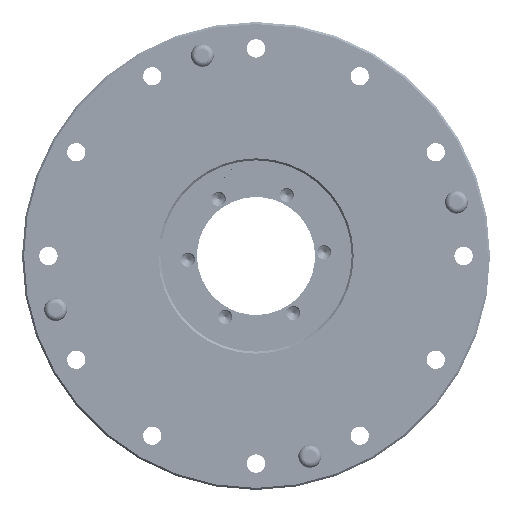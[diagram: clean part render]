
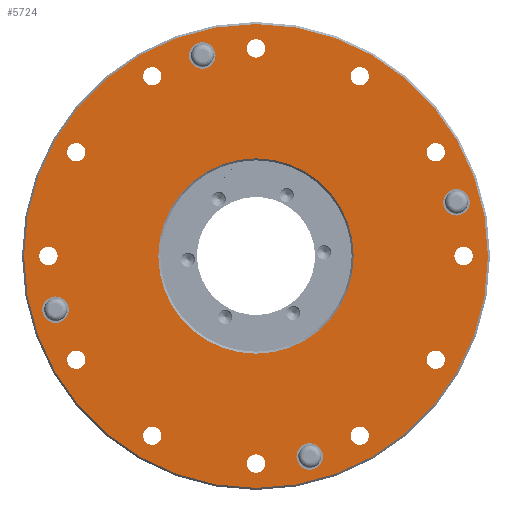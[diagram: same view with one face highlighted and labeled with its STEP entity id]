
A CAD part, front view. The second image highlights one B-rep face of the part: STEP entity #5724.
In plain terms, the highlighted planar face has unit normal (0, -1, 0).
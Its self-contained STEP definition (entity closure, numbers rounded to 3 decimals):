
#5307=PLANE('',#19863);
#5724=ADVANCED_FACE('',(#7214,#7215,#7216,#7217,#7218,#7219,#7220,#7221,
#7222,#7223,#7224,#7225,#7226,#7227,#7228,#7229,#7230,#7231),#5307,.F.);
#7214=FACE_BOUND('',#8492,.T.);
#7215=FACE_BOUND('',#8493,.T.);
#7216=FACE_BOUND('',#8494,.T.);
#7217=FACE_BOUND('',#8495,.T.);
#7218=FACE_BOUND('',#8496,.T.);
#7219=FACE_BOUND('',#8497,.T.);
#7220=FACE_BOUND('',#8498,.T.);
#7221=FACE_BOUND('',#8499,.T.);
#7222=FACE_BOUND('',#8500,.T.);
#7223=FACE_BOUND('',#8501,.T.);
#7224=FACE_BOUND('',#8502,.T.);
#7225=FACE_BOUND('',#8503,.T.);
#7226=FACE_BOUND('',#8504,.T.);
#7227=FACE_BOUND('',#8505,.T.);
#7228=FACE_BOUND('',#8506,.T.);
#7229=FACE_BOUND('',#8507,.T.);
#7230=FACE_BOUND('',#8508,.T.);
#7231=FACE_BOUND('',#8509,.T.);
#8492=EDGE_LOOP('',(#10347));
#8493=EDGE_LOOP('',(#10348));
#8494=EDGE_LOOP('',(#10349));
#8495=EDGE_LOOP('',(#10350));
#8496=EDGE_LOOP('',(#10351));
#8497=EDGE_LOOP('',(#10352));
#8498=EDGE_LOOP('',(#10353));
#8499=EDGE_LOOP('',(#10354));
#8500=EDGE_LOOP('',(#10355));
#8501=EDGE_LOOP('',(#10356));
#8502=EDGE_LOOP('',(#10357));
#8503=EDGE_LOOP('',(#10358));
#8504=EDGE_LOOP('',(#10359));
#8505=EDGE_LOOP('',(#10360));
#8506=EDGE_LOOP('',(#10361));
#8507=EDGE_LOOP('',(#10362));
#8508=EDGE_LOOP('',(#10363));
#8509=EDGE_LOOP('',(#10364));
#10347=ORIENTED_EDGE('',*,*,#16654,.F.);
#10348=ORIENTED_EDGE('',*,*,#16655,.F.);
#10349=ORIENTED_EDGE('',*,*,#16656,.F.);
#10350=ORIENTED_EDGE('',*,*,#16657,.F.);
#10351=ORIENTED_EDGE('',*,*,#16658,.T.);
#10352=ORIENTED_EDGE('',*,*,#16659,.T.);
#10353=ORIENTED_EDGE('',*,*,#16660,.T.);
#10354=ORIENTED_EDGE('',*,*,#16661,.T.);
#10355=ORIENTED_EDGE('',*,*,#16662,.T.);
#10356=ORIENTED_EDGE('',*,*,#16663,.T.);
#10357=ORIENTED_EDGE('',*,*,#16664,.T.);
#10358=ORIENTED_EDGE('',*,*,#16665,.T.);
#10359=ORIENTED_EDGE('',*,*,#16666,.T.);
#10360=ORIENTED_EDGE('',*,*,#16667,.T.);
#10361=ORIENTED_EDGE('',*,*,#16668,.T.);
#10362=ORIENTED_EDGE('',*,*,#16669,.T.);
#10363=ORIENTED_EDGE('',*,*,#16670,.T.);
#10364=ORIENTED_EDGE('',*,*,#16671,.T.);
#14900=VERTEX_POINT('',#26273);
#14901=VERTEX_POINT('',#26275);
#14902=VERTEX_POINT('',#26277);
#14903=VERTEX_POINT('',#26279);
#14904=VERTEX_POINT('',#26281);
#14905=VERTEX_POINT('',#26283);
#14906=VERTEX_POINT('',#26285);
#14907=VERTEX_POINT('',#26287);
#14908=VERTEX_POINT('',#26289);
#14909=VERTEX_POINT('',#26291);
#14910=VERTEX_POINT('',#26293);
#14911=VERTEX_POINT('',#26295);
#14912=VERTEX_POINT('',#26297);
#14913=VERTEX_POINT('',#26299);
#14914=VERTEX_POINT('',#26301);
#14915=VERTEX_POINT('',#26303);
#14916=VERTEX_POINT('',#26305);
#14917=VERTEX_POINT('',#26307);
#16654=EDGE_CURVE('',#14900,#14900,#18931,.T.);
#16655=EDGE_CURVE('',#14901,#14901,#18932,.T.);
#16656=EDGE_CURVE('',#14902,#14902,#18933,.T.);
#16657=EDGE_CURVE('',#14903,#14903,#18934,.T.);
#16658=EDGE_CURVE('',#14904,#14904,#18935,.T.);
#16659=EDGE_CURVE('',#14905,#14905,#18936,.T.);
#16660=EDGE_CURVE('',#14906,#14906,#18937,.T.);
#16661=EDGE_CURVE('',#14907,#14907,#18938,.T.);
#16662=EDGE_CURVE('',#14908,#14908,#18939,.T.);
#16663=EDGE_CURVE('',#14909,#14909,#18940,.T.);
#16664=EDGE_CURVE('',#14910,#14910,#18941,.T.);
#16665=EDGE_CURVE('',#14911,#14911,#18942,.T.);
#16666=EDGE_CURVE('',#14912,#14912,#18943,.T.);
#16667=EDGE_CURVE('',#14913,#14913,#18944,.T.);
#16668=EDGE_CURVE('',#14914,#14914,#18945,.T.);
#16669=EDGE_CURVE('',#14915,#14915,#18946,.T.);
#16670=EDGE_CURVE('',#14916,#14916,#18947,.T.);
#16671=EDGE_CURVE('',#14917,#14917,#18948,.T.);
#18931=CIRCLE('',#19845,3.25);
#18932=CIRCLE('',#19846,3.25);
#18933=CIRCLE('',#19847,3.25);
#18934=CIRCLE('',#19848,3.25);
#18935=CIRCLE('',#19849,24.);
#18936=CIRCLE('',#19850,57.);
#18937=CIRCLE('',#19851,2.25);
#18938=CIRCLE('',#19852,2.25);
#18939=CIRCLE('',#19853,2.25);
#18940=CIRCLE('',#19854,2.25);
#18941=CIRCLE('',#19855,2.25);
#18942=CIRCLE('',#19856,2.25);
#18943=CIRCLE('',#19857,2.25);
#18944=CIRCLE('',#19858,2.25);
#18945=CIRCLE('',#19859,2.25);
#18946=CIRCLE('',#19860,2.25);
#18947=CIRCLE('',#19861,2.25);
#18948=CIRCLE('',#19862,2.25);
#19845=AXIS2_PLACEMENT_3D('',#26272,#21794,#21795);
#19846=AXIS2_PLACEMENT_3D('',#26274,#21796,#21797);
#19847=AXIS2_PLACEMENT_3D('',#26276,#21798,#21799);
#19848=AXIS2_PLACEMENT_3D('',#26278,#21800,#21801);
#19849=AXIS2_PLACEMENT_3D('',#26280,#21802,#21803);
#19850=AXIS2_PLACEMENT_3D('',#26282,#21804,#21805);
#19851=AXIS2_PLACEMENT_3D('',#26284,#21806,#21807);
#19852=AXIS2_PLACEMENT_3D('',#26286,#21808,#21809);
#19853=AXIS2_PLACEMENT_3D('',#26288,#21810,#21811);
#19854=AXIS2_PLACEMENT_3D('',#26290,#21812,#21813);
#19855=AXIS2_PLACEMENT_3D('',#26292,#21814,#21815);
#19856=AXIS2_PLACEMENT_3D('',#26294,#21816,#21817);
#19857=AXIS2_PLACEMENT_3D('',#26296,#21818,#21819);
#19858=AXIS2_PLACEMENT_3D('',#26298,#21820,#21821);
#19859=AXIS2_PLACEMENT_3D('',#26300,#21822,#21823);
#19860=AXIS2_PLACEMENT_3D('',#26302,#21824,#21825);
#19861=AXIS2_PLACEMENT_3D('',#26304,#21826,#21827);
#19862=AXIS2_PLACEMENT_3D('',#26306,#21828,#21829);
#19863=AXIS2_PLACEMENT_3D('',#26308,#21830,#21831);
#21794=DIRECTION('',(0.,-1.,0.));
#21795=DIRECTION('',(-1.,0.,0.));
#21796=DIRECTION('',(0.,-1.,0.));
#21797=DIRECTION('',(0.,0.,1.));
#21798=DIRECTION('',(0.,-1.,0.));
#21799=DIRECTION('',(1.,0.,0.));
#21800=DIRECTION('',(0.,-1.,0.));
#21801=DIRECTION('',(0.,0.,-1.));
#21802=DIRECTION('',(0.,1.,0.));
#21803=DIRECTION('',(0.,0.,1.));
#21804=DIRECTION('',(0.,-1.,0.));
#21805=DIRECTION('',(0.,0.,1.));
#21806=DIRECTION('',(0.,1.,0.));
#21807=DIRECTION('',(0.,0.,1.));
#21808=DIRECTION('',(0.,1.,0.));
#21809=DIRECTION('',(0.,0.,1.));
#21810=DIRECTION('',(0.,1.,0.));
#21811=DIRECTION('',(0.,0.,1.));
#21812=DIRECTION('',(0.,1.,0.));
#21813=DIRECTION('',(0.,0.,1.));
#21814=DIRECTION('',(0.,1.,0.));
#21815=DIRECTION('',(0.,0.,1.));
#21816=DIRECTION('',(0.,1.,0.));
#21817=DIRECTION('',(0.,0.,1.));
#21818=DIRECTION('',(0.,1.,0.));
#21819=DIRECTION('',(0.,0.,1.));
#21820=DIRECTION('',(0.,1.,0.));
#21821=DIRECTION('',(0.,0.,1.));
#21822=DIRECTION('',(0.,1.,0.));
#21823=DIRECTION('',(0.,0.,1.));
#21824=DIRECTION('',(0.,1.,0.));
#21825=DIRECTION('',(0.,0.,1.));
#21826=DIRECTION('',(0.,1.,0.));
#21827=DIRECTION('',(0.,0.,1.));
#21828=DIRECTION('',(0.,1.,0.));
#21829=DIRECTION('',(0.,0.,1.));
#21830=DIRECTION('',(0.,1.,0.));
#21831=DIRECTION('',(0.,0.,1.));
#26272=CARTESIAN_POINT('',(13.2,2.5,-49.262));
#26273=CARTESIAN_POINT('',(9.95,2.5,-49.262));
#26274=CARTESIAN_POINT('',(-49.262,2.5,-13.2));
#26275=CARTESIAN_POINT('',(-49.262,2.5,-9.95));
#26276=CARTESIAN_POINT('',(-13.2,2.5,49.262));
#26277=CARTESIAN_POINT('',(-9.95,2.5,49.262));
#26278=CARTESIAN_POINT('',(49.262,2.5,13.2));
#26279=CARTESIAN_POINT('',(49.262,2.5,9.95));
#26280=CARTESIAN_POINT('',(0.,2.5,0.));
#26281=CARTESIAN_POINT('',(0.,2.5,24.));
#26282=CARTESIAN_POINT('',(0.,2.5,0.));
#26283=CARTESIAN_POINT('',(0.,2.5,57.));
#26284=CARTESIAN_POINT('',(-25.5,2.5,-44.167));
#26285=CARTESIAN_POINT('',(-25.5,2.5,-41.917));
#26286=CARTESIAN_POINT('',(-44.167,2.5,-25.5));
#26287=CARTESIAN_POINT('',(-44.167,2.5,-23.25));
#26288=CARTESIAN_POINT('',(-51.,2.5,0.));
#26289=CARTESIAN_POINT('',(-51.,2.5,2.25));
#26290=CARTESIAN_POINT('',(-44.167,2.5,25.5));
#26291=CARTESIAN_POINT('',(-44.167,2.5,27.75));
#26292=CARTESIAN_POINT('',(-25.5,2.5,44.167));
#26293=CARTESIAN_POINT('',(-25.5,2.5,46.417));
#26294=CARTESIAN_POINT('',(0.,2.5,51.));
#26295=CARTESIAN_POINT('',(0.,2.5,53.25));
#26296=CARTESIAN_POINT('',(25.5,2.5,44.167));
#26297=CARTESIAN_POINT('',(25.5,2.5,46.417));
#26298=CARTESIAN_POINT('',(44.167,2.5,25.5));
#26299=CARTESIAN_POINT('',(44.167,2.5,27.75));
#26300=CARTESIAN_POINT('',(51.,2.5,0.));
#26301=CARTESIAN_POINT('',(51.,2.5,2.25));
#26302=CARTESIAN_POINT('',(44.167,2.5,-25.5));
#26303=CARTESIAN_POINT('',(44.167,2.5,-23.25));
#26304=CARTESIAN_POINT('',(25.5,2.5,-44.167));
#26305=CARTESIAN_POINT('',(25.5,2.5,-41.917));
#26306=CARTESIAN_POINT('',(0.,2.5,-51.));
#26307=CARTESIAN_POINT('',(0.,2.5,-48.75));
#26308=CARTESIAN_POINT('',(23.5,2.5,0.));
